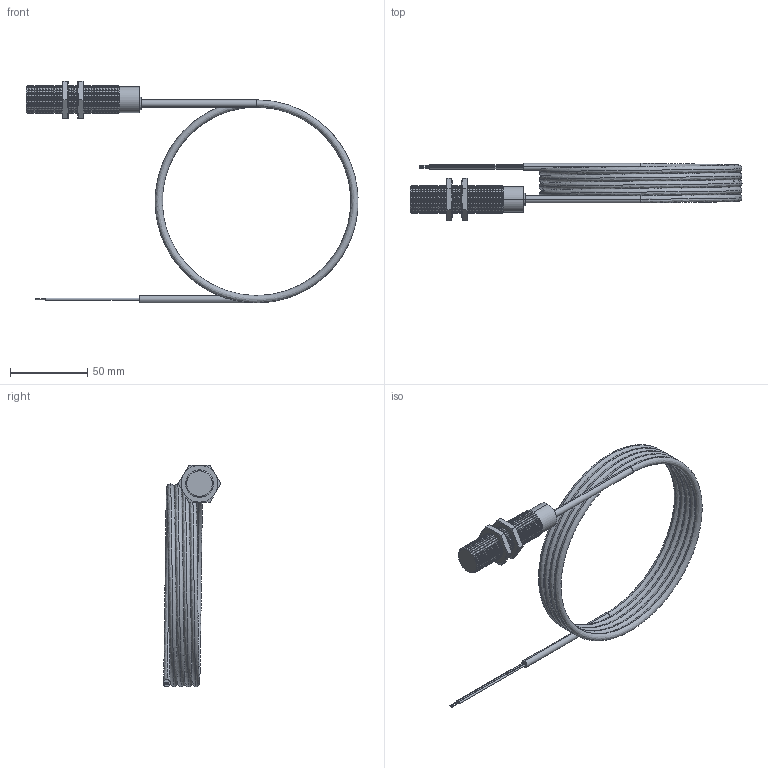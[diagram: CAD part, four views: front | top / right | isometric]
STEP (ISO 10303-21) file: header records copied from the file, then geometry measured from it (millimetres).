
FILE_DESCRIPTION (( 'STEP AP203' ), '1' );
FILE_NAME ('90-XXXX-024.STEP', '2015-10-28T13:18:07', ( 'Sam' ), ( 'Spade' ), 'SwSTEP 2.0', 'SolidWorks 2002296', '' );
FILE_SCHEMA (( 'CONFIG_CONTROL_DESIGN' ));
Length unit declared in the file: inch
Products named in the file (13): 90-XXXX-024; Imported231; Imported241; Imported235; Imported240; Imported239; Imported238; Imported237; Imported242; Imported232; Imported236; Imported233; Imported234
Assembly tree (12 placements, depth 2):
  90-XXXX-024
    Imported238
    Imported232
    Imported241
    Imported237
    Imported231
    Imported239
    Imported236
    Imported235
    Imported233
    Imported240
    Imported242
    Imported234
Bounding box: 215.54 x 37.45 x 143.87 mm (x, y, z)
Volume: 54984.5 mm3; surface area: 39764.6 mm2
Topology: 12 solids, 12 shells, 602 faces, 1200 edges, 645 vertices
Faces by surface type: cone 302, cylinder 230, plane 60, bspline 10
Entity records: 18347 total; most frequent: CARTESIAN_POINT 4338, DIRECTION 2962, ORIENTED_EDGE 2400, AXIS2_PLACEMENT_3D 1221, EDGE_CURVE 1200, VERTEX_POINT 645, EDGE_LOOP 629, CIRCLE 614
